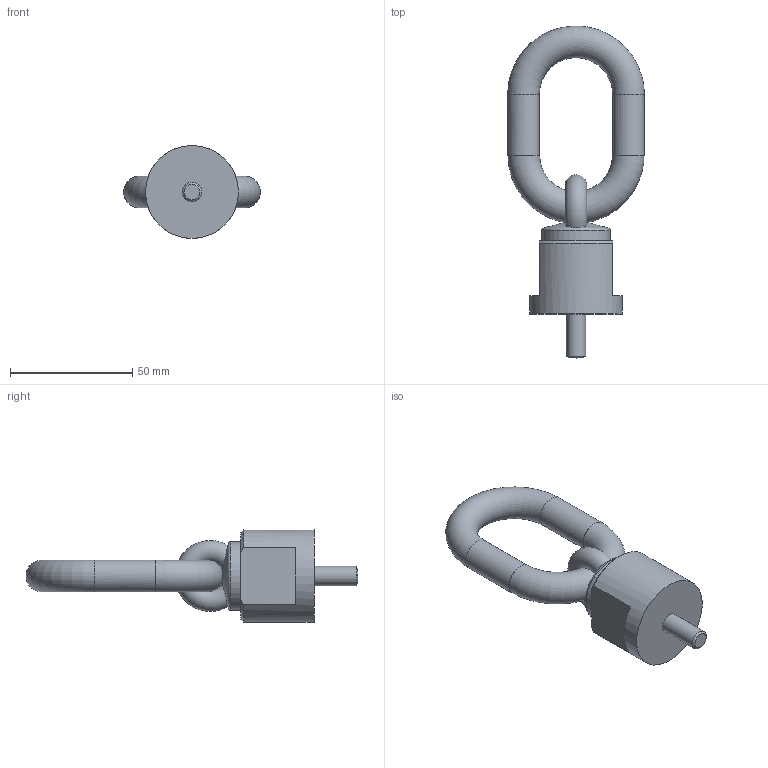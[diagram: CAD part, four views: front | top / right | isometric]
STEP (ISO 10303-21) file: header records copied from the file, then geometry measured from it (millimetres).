
FILE_DESCRIPTION( ( 'STEP AP203' ), '1' );
FILE_NAME( 'p:/temp/worker_8/temp/app_42_0201906261611294180542610e898ce_000000_00_00_000000/format_2/C8000030818.stp', '2019-06-26T14:11:30', ( '' ), ( '' ), ' ', 'PARTsolutions', ' ' );
FILE_SCHEMA( ( 'CONFIG_CONTROL_DESIGN' ) );
Length unit declared in the file: millimetre
Products named in the file (1): _C8000030818
Bounding box: 56 x 135.98 x 38 mm (x, y, z)
Volume: 63010.5 mm3; surface area: 14790.1 mm2
Topology: 1 solids, 1 shells, 25 faces, 65 edges, 40 vertices
Faces by surface type: plane 12, cylinder 5, torus 4, cone 4
Full cylindrical faces by diameter (mm): 8 x1, 13 x2, 28.2 x1, 38 x1
Entity records: 1050 total; most frequent: CARTESIAN_POINT 493, DIRECTION 110, ORIENTED_EDGE 86, AXIS2_PLACEMENT_3D 51, EDGE_CURVE 43, EDGE_LOOP 42, FACE_OUTER_BOUND 34, VERTEX_POINT 32
